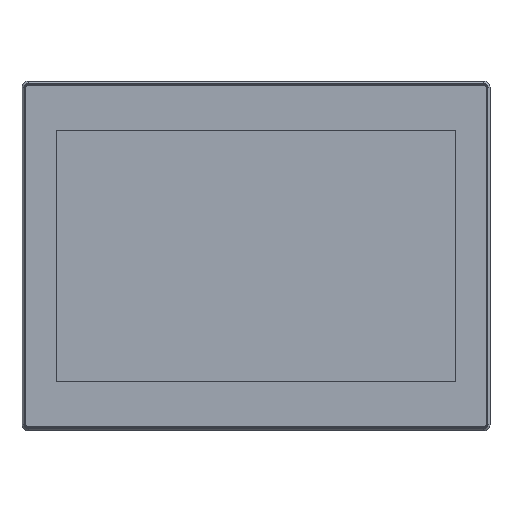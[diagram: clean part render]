
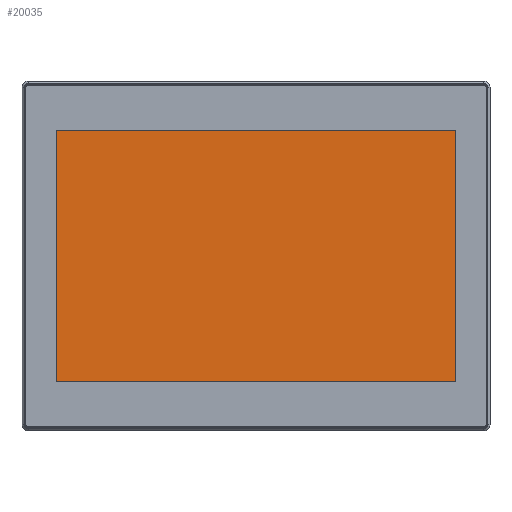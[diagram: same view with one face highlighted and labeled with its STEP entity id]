
A CAD part, top view. The second image highlights one B-rep face of the part: STEP entity #20035.
In plain terms, the highlighted planar face has unit normal (0, 0, 1).
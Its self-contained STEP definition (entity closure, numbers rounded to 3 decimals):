
#1172 = LINE ( 'NONE', #3930, #25752 ) ;
#3158 = CARTESIAN_POINT ( 'NONE',  ( 285.96, 32.65, 63.84 ) ) ;
#3930 = CARTESIAN_POINT ( 'NONE',  ( 22.54, 197.85, 63.84 ) ) ;
#10228 = EDGE_CURVE ( 'NONE', #60355, #56164, #49797, .T. ) ;
#13165 = LINE ( 'NONE', #49502, #64388 ) ;
#13366 = DIRECTION ( 'NONE',  ( -1., 0., 0. ) ) ;
#19678 = VECTOR ( 'NONE', #63103, 1000. ) ;
#19748 = CARTESIAN_POINT ( 'NONE',  ( 154.25, 115.25, 63.84 ) ) ;
#20035 = ADVANCED_FACE ( 'NONE', ( #44292 ), #62918, .F. ) ;
#20617 = ORIENTED_EDGE ( 'NONE', *, *, #44364, .T. ) ;
#25752 = VECTOR ( 'NONE', #52473, 1000. ) ;
#26043 = VERTEX_POINT ( 'NONE', #62243 ) ;
#27467 = CARTESIAN_POINT ( 'NONE',  ( 285.96, 32.65, 63.84 ) ) ;
#29586 = EDGE_CURVE ( 'NONE', #56164, #59373, #13165, .T. ) ;
#34666 = VECTOR ( 'NONE', #39868, 1000. ) ;
#36144 = EDGE_LOOP ( 'NONE', ( #73553, #20617, #57861, #39526 ) ) ;
#39526 = ORIENTED_EDGE ( 'NONE', *, *, #29586, .T. ) ;
#39868 = DIRECTION ( 'NONE',  ( 0., -1., 0. ) ) ;
#44292 = FACE_OUTER_BOUND ( 'NONE', #36144, .T. ) ;
#44364 = EDGE_CURVE ( 'NONE', #26043, #60355, #1172, .T. ) ;
#49502 = CARTESIAN_POINT ( 'NONE',  ( 22.54, 32.65, 63.84 ) ) ;
#49797 = LINE ( 'NONE', #51537, #34666 ) ;
#51537 = CARTESIAN_POINT ( 'NONE',  ( 22.54, 32.65, 63.84 ) ) ;
#52473 = DIRECTION ( 'NONE',  ( -1., 0., 0. ) ) ;
#55620 = DIRECTION ( 'NONE',  ( 1., 0., 0. ) ) ;
#56164 = VERTEX_POINT ( 'NONE', #65279 ) ;
#57861 = ORIENTED_EDGE ( 'NONE', *, *, #10228, .T. ) ;
#59373 = VERTEX_POINT ( 'NONE', #27467 ) ;
#60355 = VERTEX_POINT ( 'NONE', #60493 ) ;
#60493 = CARTESIAN_POINT ( 'NONE',  ( 22.54, 197.85, 63.84 ) ) ;
#62243 = CARTESIAN_POINT ( 'NONE',  ( 285.96, 197.85, 63.84 ) ) ;
#62918 = PLANE ( 'NONE',  #67797 ) ;
#63103 = DIRECTION ( 'NONE',  ( 0., 1., 0. ) ) ;
#64388 = VECTOR ( 'NONE', #55620, 1000. ) ;
#65279 = CARTESIAN_POINT ( 'NONE',  ( 22.54, 32.65, 63.84 ) ) ;
#66144 = LINE ( 'NONE', #3158, #19678 ) ;
#67797 = AXIS2_PLACEMENT_3D ( 'NONE', #19748, #68772, #13366 ) ;
#68772 = DIRECTION ( 'NONE',  ( 0., 0., -1. ) ) ;
#73553 = ORIENTED_EDGE ( 'NONE', *, *, #75876, .T. ) ;
#75876 = EDGE_CURVE ( 'NONE', #59373, #26043, #66144, .T. ) ;
